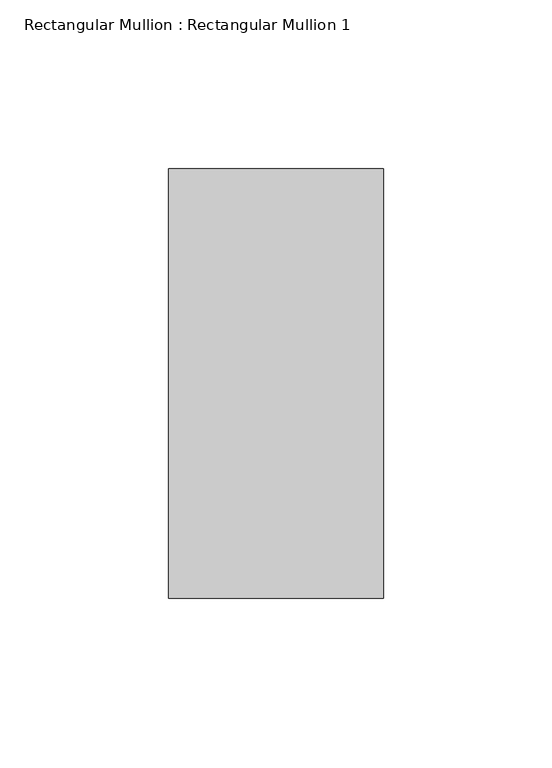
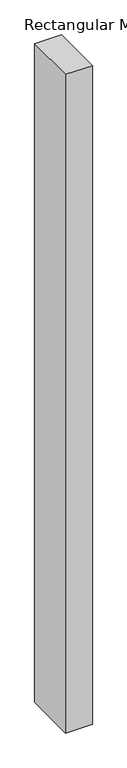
"""IFC4 building model written with IfcOpenShell, lengths in millimetres: member geometry, Rectangular Mullion : Rectangular Mullion 1."""

from ifc_helpers import new_model, si_unit, frame, origin, place, context, project, spatial, polyline, outline, extrude, source, transform, mapped, element, save


def rectangular_mullion_rectangular_mullion_1_b50b5572(model_context):
    return source(origin(), model_context, "Body", "SweptSolid", [
        extrude(outline(polyline([(0.0, 63.5), (0.0, -63.5), (-63.5, -63.5), (-63.5, 63.5), (0.0, 63.5)])), frame((0.0, 0.0, -1653.1666665), z_axis=(0.0, 0.0, 1.0), x_axis=(1.0, 0.0, 0.0)), (0.0, 0.0, 1.0), 1653.1666665),
    ])


if __name__ == "__main__":
    model = new_model("IFC4")
    model_context = context("Model", 3, world=origin())
    ifc_project = project(units=[si_unit("LENGTHUNIT", "METRE", prefix="MILLI")], contexts=[model_context])
    site = spatial("IfcSite", under=ifc_project)
    building = spatial("IfcBuilding", under=site)
    placement = place(None, origin())
    rectangular_mullion_rectangular_mullion_1_shape = rectangular_mullion_rectangular_mullion_1_b50b5572(model_context)
    element("IfcMember", 1, ObjectType="Rectangular Mullion : Rectangular Mullion 1", at=placement, inside=building, context=model_context, shape_type="MappedRepresentation", body=[
        mapped(rectangular_mullion_rectangular_mullion_1_shape, transform((0.0, 0.0, 0.0), x_axis=(1.0, 0.0, 0.0), y_axis=(0.0, 1.0, 0.0), z_axis=(0.0, 0.0, 1.0))),
    ])
    save(model, "model.ifc")
